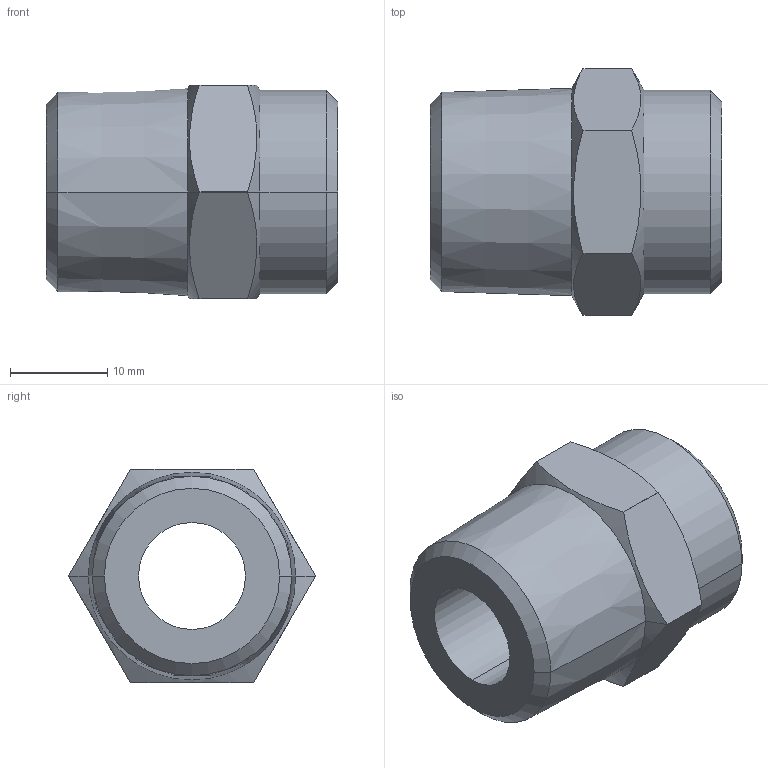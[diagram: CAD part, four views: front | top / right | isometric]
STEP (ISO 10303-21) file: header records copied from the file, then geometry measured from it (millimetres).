
FILE_DESCRIPTION((''),'2;1');
FILE_NAME('G:\BIR\Pajchrowski\projekty\8000 models\4376g\4376g STEP\14376_12-12.stp','2006-04-28T11:33:27',('pajchrowski'),(''),'Autodesk Inventor 8','Autodesk Inventor 8','');
FILE_SCHEMA(('AUTOMOTIVE_DESIGN { 1 0 10303 214 1 1 1 1 }'));
Length unit declared in the file: millimetre
Products named in the file (1): 14376_12-12
Bounding box: 30 x 25.4 x 22 mm (x, y, z)
Volume: 7881.2 mm3; surface area: 3544 mm2
Topology: 1 solids, 1 shells, 30 faces, 72 edges, 44 vertices
Faces by surface type: cylinder 12, cone 10, plane 8
Entity records: 887 total; most frequent: CARTESIAN_POINT 171, DIRECTION 154, ORIENTED_EDGE 144, EDGE_CURVE 72, AXIS2_PLACEMENT_3D 63, VERTEX_POINT 44, CIRCLE 32, EDGE_LOOP 32
